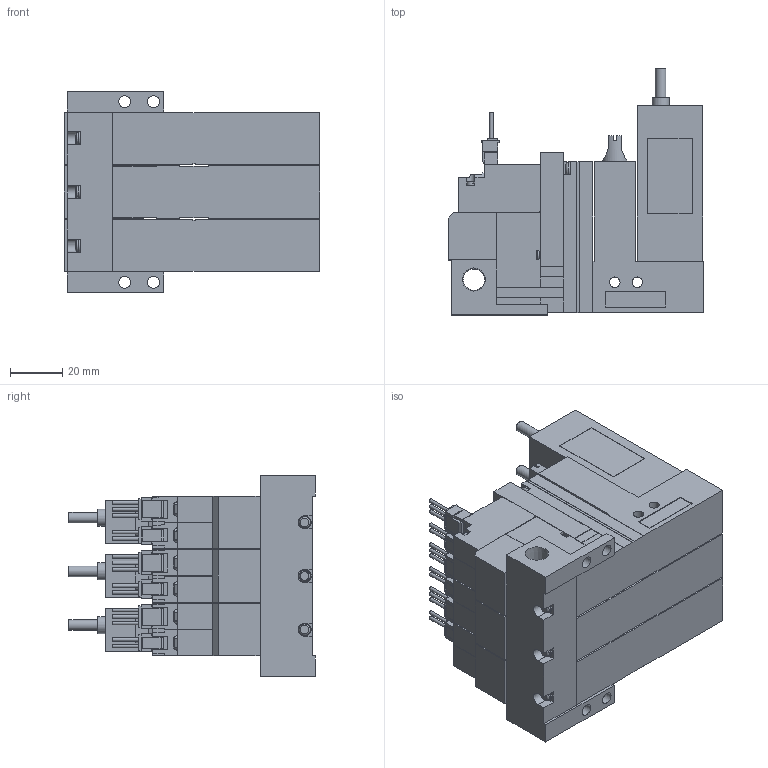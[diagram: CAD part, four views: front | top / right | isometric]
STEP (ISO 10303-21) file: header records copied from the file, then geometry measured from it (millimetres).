
FILE_DESCRIPTION(('STEP AP203'),'1');
FILE_NAME('VG_VGPLC5WLR303.stp','2025-02-18T23:19:54',(' '),(' '),'Spatial InterOp 3D',' ',' ');
FILE_SCHEMA(('CONFIG_CONTROL_DESIGN'));
Length unit declared in the file: millimetre
Products named in the file (5): BMC22M※※※※VG_VGPLC5WLR303; Solenoid valve W; Pressure sensor VGLC; Unit LC; Base MR30R
Assembly tree (10 placements, depth 2):
  BMC22M※※※※VG_VGPLC5WLR303
    Solenoid valve W  x3
    Pressure sensor VGLC  x3
    Unit LC  x3
    Base MR30R
Bounding box: 97.6 x 94 x 77 mm (x, y, z)
Volume: 341154.4 mm3; surface area: 88485.8 mm2
Topology: 10 solids, 10 shells, 1209 faces, 3236 edges, 2134 vertices
Faces by surface type: plane 1022, cylinder 149, cone 23, torus 15
Full cylindrical faces by diameter (mm): 1.4 x15, 2.5 x9, 3 x12, 3.5 x12, 3.6 x3, 4 x18, 4.134 x3, 4.5 x4, 5.2 x3, 6 x3, 6.5 x3, 6.6 x3, 8.279 x1
Entity records: 13848 total; most frequent: CARTESIAN_POINT 2607, ORIENTED_EDGE 2202, DIRECTION 2195, EDGE_CURVE 1101, LINE 913, VECTOR 913, VERTEX_POINT 762, AXIS2_PLACEMENT_3D 641
